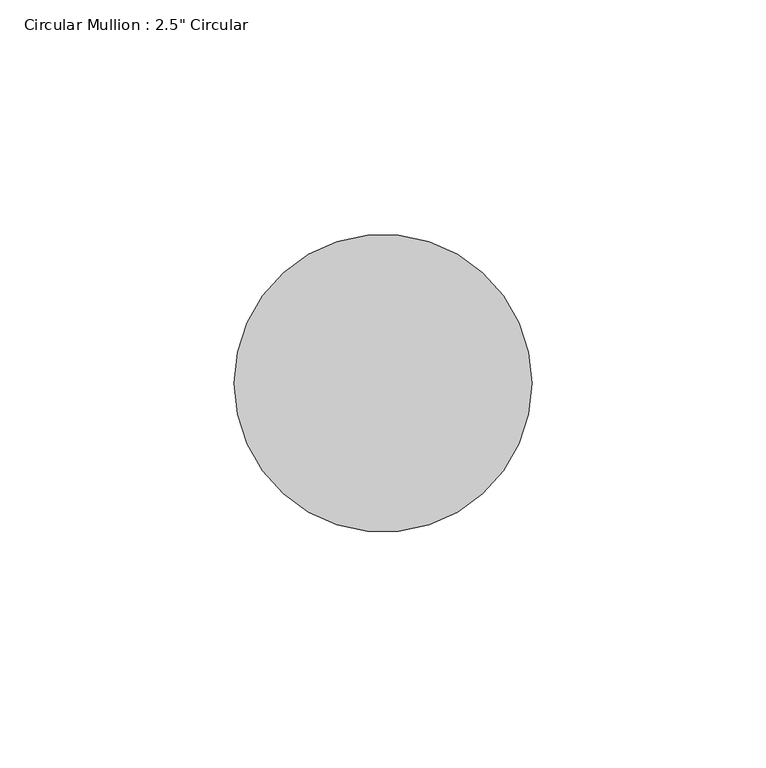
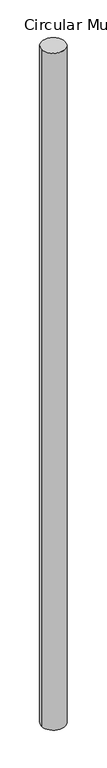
"""IFC4 building model written with IfcOpenShell, lengths in millimetres: member geometry."""

from ifc_helpers import new_model, si_unit, point, frame, frame_2d, origin, place, context, project, spatial, circle_curve, trimmed, segment, composite_curve, outline, extrude, source, transform, mapped, element, save


def member_7c9e79d0(model_context):
    return source(origin(), model_context, "Body", "SweptSolid", [
        extrude(outline(composite_curve([segment(trimmed(circle_curve(frame_2d((-31.75, 0.0)), 31.75), [point((0.0, 0.0))], [point((-63.5, 0.0))], False, "CARTESIAN"), True, "CONTINUOUS"), segment(trimmed(circle_curve(frame_2d((-31.75, 0.0)), 31.75), [point((-63.5, 0.0))], [point((0.0, 0.0))], False, "CARTESIAN"), True, "CONTINUOUS")], self_intersect=False)), frame((0.0, 0.0, -1926.4895197), z_axis=(0.0, 0.0, 1.0), x_axis=(1.0, 0.0, 0.0)), (0.0, 0.0, 1.0), 1926.4895197),
    ])


if __name__ == "__main__":
    model = new_model("IFC4")
    model_context = context("Model", 3, world=origin())
    ifc_project = project(units=[si_unit("LENGTHUNIT", "METRE", prefix="MILLI")], contexts=[model_context])
    site = spatial("IfcSite", under=ifc_project)
    building = spatial("IfcBuilding", under=site)
    placement = place(None, origin())
    member_shape = member_7c9e79d0(model_context)
    element("IfcMember", 1, ObjectType="Circular Mullion : 2.5\" Circular", at=placement, inside=building, context=model_context, shape_type="MappedRepresentation", body=[
        mapped(member_shape, transform((0.0, 0.0, 0.0), x_axis=(1.0, 0.0, 0.0), y_axis=(0.0, 1.0, 0.0), z_axis=(0.0, 0.0, 1.0))),
    ])
    save(model, "model.ifc")
